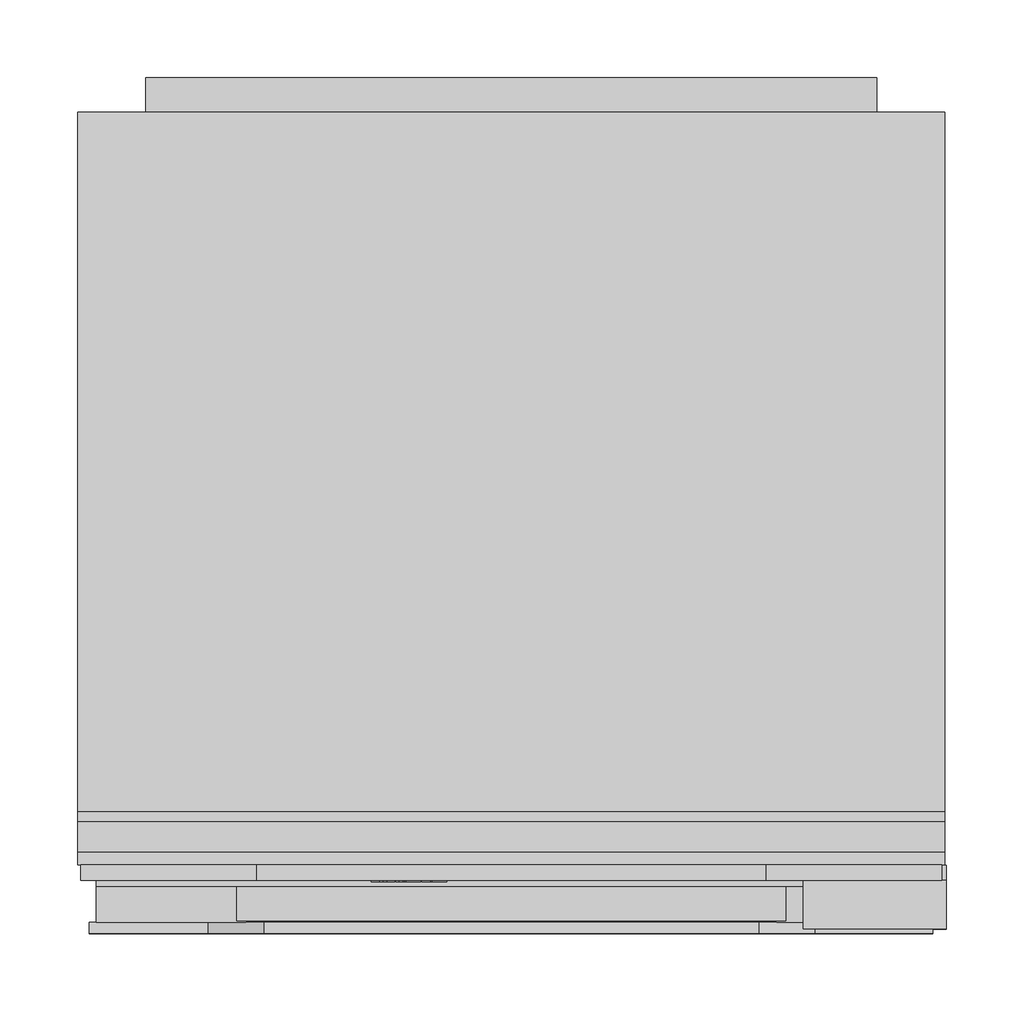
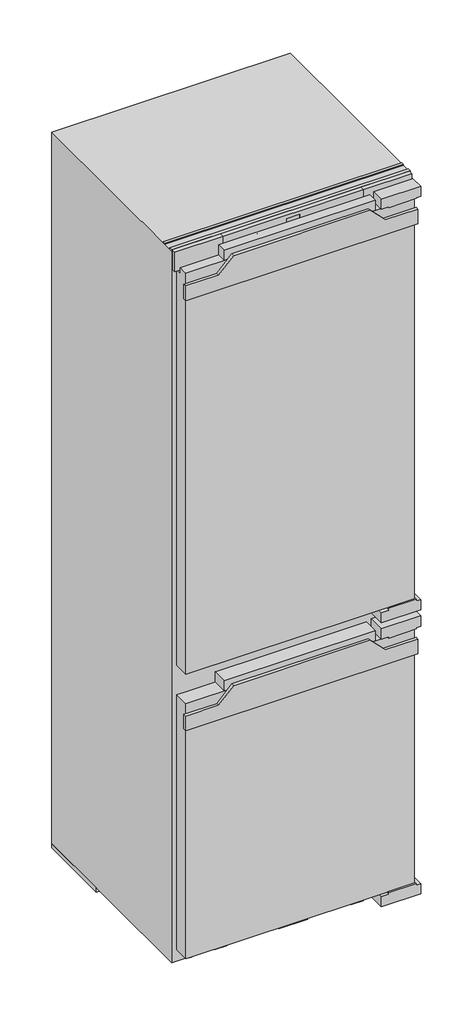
# Not in any storey: 1 proxy.
"""IFC4 building model written with IfcOpenShell, lengths in millimetres."""

import ifcopenshell
import ifcopenshell.guid

model = None  # the IFC model being written
_history = None  # IfcOwnerHistory: only IFC2X3 demands one
_inside = {}  # id of a spatial element -> (the spatial element, [elements in it])
_under = {}  # id of a project, library or spatial element -> (it, [spatial elements below it])
_declared = {}  # id of a project -> (the project, [libraries it declares])
_typed = {}  # id of a type object -> (the type object, [elements of that type])
_made_of = {}  # id of a material, layer set ... -> (it, [elements and type objects made of it])


def new_model(schema):
    """Start an empty IFC model of exactly this schema.

    Asked for "IFC4X3", IfcOpenShell would pick the latest addendum, in which some entities
    have other attributes; the version numbers below select the first issue.
    IFC2X3 requires an IfcOwnerHistory on every rooted entity: one is made here for all.
    """
    global model, _history
    if schema == "IFC4X3":
        model = ifcopenshell.file(schema_version=(4, 3, 0, 0))
    else:
        model = ifcopenshell.file(schema=schema)
    _inside.clear()
    _under.clear()
    _declared.clear()
    _typed.clear()
    _made_of.clear()
    _history = None
    if model.schema == "IFC2X3":
        org = make("IfcOrganization", Name="unknown")
        user = make(
            "IfcPersonAndOrganization",
            ThePerson=make("IfcPerson", FamilyName="unknown"),
            TheOrganization=org,
        )
        app = make(
            "IfcApplication",
            ApplicationDeveloper=org,
            Version="unknown",
            ApplicationFullName="unknown",
            ApplicationIdentifier="unknown",
        )
        _history = make(
            "IfcOwnerHistory",
            OwningUser=user,
            OwningApplication=app,
            ChangeAction="ADDED",
            CreationDate=0,
        )
    return model


def make(cls, **values):
    """One entity of the class cls with the attributes given. An attribute that is None is left unset."""
    return model.create_entity(
        cls, **{name: value for name, value in values.items() if value is not None}
    )


def rooted(cls, **values):
    """An entity with a GlobalId (a new one), such as an element, a storey or a relation."""
    return make(cls, GlobalId=ifcopenshell.guid.new(), OwnerHistory=_history, **values)


def si_unit(unit_type, name, prefix=None):
    """IfcSIUnit, for example si_unit("LENGTHUNIT", "METRE", prefix="MILLI")."""
    return make("IfcSIUnit", UnitType=unit_type, Prefix=prefix, Name=name)


def assignment(units):
    """IfcUnitAssignment: the units of a project."""
    return None if units is None else make("IfcUnitAssignment", Units=units)


def point(xyz):
    """IfcCartesianPoint."""
    return None if xyz is None else make("IfcCartesianPoint", Coordinates=xyz)


def direction(xyz):
    """IfcDirection."""
    return None if xyz is None else make("IfcDirection", DirectionRatios=xyz)


def frame(location, z_axis=None, x_axis=None):
    """IfcAxis2Placement3D, a coordinate frame: its origin and axes. An axis left out is left unset."""
    return make(
        "IfcAxis2Placement3D",
        Location=point(location),
        Axis=direction(z_axis),
        RefDirection=direction(x_axis),
    )


def frame_2d(location, x_axis=None):
    """IfcAxis2Placement2D, a coordinate frame in the plane: its origin and x axis."""
    return make(
        "IfcAxis2Placement2D", Location=point(location), RefDirection=direction(x_axis)
    )


def origin():
    """The frame at (0, 0, 0) with its axes left unset."""
    return frame((0.0, 0.0, 0.0))


def origin_with_axes():
    """The frame at (0, 0, 0) with the z axis (0, 0, 1) and the x axis (1, 0, 0) written out."""
    return frame((0.0, 0.0, 0.0), z_axis=(0.0, 0.0, 1.0), x_axis=(1.0, 0.0, 0.0))


def place(relative_to, where):
    """IfcLocalPlacement: puts the frame where relative to a parent placement (None: the world)."""
    return make(
        "IfcLocalPlacement", PlacementRelTo=relative_to, RelativePlacement=where
    )


def context(
    kind, dimensions, precision=None, world=None, true_north=None, identifier=None
):
    """IfcGeometricRepresentationContext, for example the 3D "Model" context."""
    return make(
        "IfcGeometricRepresentationContext",
        ContextIdentifier=identifier,
        ContextType=kind,
        CoordinateSpaceDimension=dimensions,
        Precision=precision,
        WorldCoordinateSystem=world,
        TrueNorth=true_north,
    )


def project(units=None, contexts=None):
    """IfcProject with its units and contexts."""
    return rooted(
        "IfcProject",
        Name="project",
        RepresentationContexts=contexts,
        UnitsInContext=assignment(units),
    )


def spatial(cls, under=None, at=None, **own):
    """A site, building, storey or space (cls), placed at a placement, below another one or the project."""
    s = rooted(cls, ObjectPlacement=at, **own)
    if under is not None:
        _under.setdefault(under.id(), (under, []))[1].append(s)
    return s


def polyline(points):
    """IfcPolyline through the points."""
    return make("IfcPolyline", Points=[point(p) for p in points])


def circle_curve(where, radius):
    """IfcCircle in the frame where."""
    return make("IfcCircle", Position=where, Radius=radius)


def ellipse_curve(where, semi_axis1, semi_axis2):
    """IfcEllipse in the frame where."""
    return make(
        "IfcEllipse", Position=where, SemiAxis1=semi_axis1, SemiAxis2=semi_axis2
    )


def trimmed(basis, trim1, trim2, sense, master):
    """IfcTrimmedCurve: the piece of a basis curve between two trims."""
    return make(
        "IfcTrimmedCurve",
        BasisCurve=basis,
        Trim1=trim1,
        Trim2=trim2,
        SenseAgreement=sense,
        MasterRepresentation=master,
    )


def segment(curve, same_sense, transition):
    """IfcCompositeCurveSegment."""
    return make(
        "IfcCompositeCurveSegment",
        Transition=transition,
        SameSense=same_sense,
        ParentCurve=curve,
    )


def composite_curve(segments, self_intersect=None):
    """IfcCompositeCurve: segments joined end to end."""
    return make("IfcCompositeCurve", Segments=segments, SelfIntersect=self_intersect)


def outline(outer, holes=None, kind="AREA"):
    """IfcArbitraryClosedProfileDef: a profile drawn as a closed curve; with holes, ...WithVoids."""
    if holes is None:
        return make("IfcArbitraryClosedProfileDef", ProfileType=kind, OuterCurve=outer)
    return make(
        "IfcArbitraryProfileDefWithVoids",
        ProfileType=kind,
        OuterCurve=outer,
        InnerCurves=holes,
    )


def extrude(swept, where, along, depth):
    """IfcExtrudedAreaSolid: the profile swept, set in the frame where, extruded along a direction by depth."""
    return make(
        "IfcExtrudedAreaSolid",
        SweptArea=swept,
        Position=where,
        ExtrudedDirection=direction(along),
        Depth=depth,
    )


def faces_of(points, faces, orient=None, outer=None):
    """IfcFace entities. A face is a list of loops; a loop is a list of indices into points, from 0.

    orient and outer hold one flag for each loop. By default every Orientation is true, the
    first loop of a face is its IfcFaceOuterBound and the others are IfcFaceBound.
    """
    made = []
    for i, loops in enumerate(faces):
        bounds = []
        for j, loop in enumerate(loops):
            is_outer = j == 0 if outer is None else outer[i][j]
            bounds.append(
                make(
                    "IfcFaceOuterBound" if is_outer else "IfcFaceBound",
                    Bound=make("IfcPolyLoop", Polygon=[points[k] for k in loop]),
                    Orientation=True if orient is None else orient[i][j],
                )
            )
        made.append(make("IfcFace", Bounds=bounds))
    return made


def faceted_brep(points, faces, orient=None, outer=None, voids=None):
    """IfcFacetedBrep: a solid bounded by flat faces; with voids (closed shells), ...WithVoids."""
    shared = [point(p) for p in points]
    hull = make("IfcClosedShell", CfsFaces=faces_of(shared, faces, orient, outer))
    if voids is None:
        return make("IfcFacetedBrep", Outer=hull)
    return make(
        "IfcFacetedBrepWithVoids",
        Outer=hull,
        Voids=[
            make(cls, CfsFaces=faces_of(shared, fs, o, b)) for cls, fs, o, b in voids
        ],
    )


def shape(context_of_items, identifier, shape_type, items):
    """IfcShapeRepresentation: the items that make up one representation, for example the "Body"."""
    return make(
        "IfcShapeRepresentation",
        ContextOfItems=context_of_items,
        RepresentationIdentifier=identifier,
        RepresentationType=shape_type,
        Items=items,
    )


def source(mapping_origin, context_of_items, identifier, shape_type, items):
    """IfcRepresentationMap: a shape defined once, which mapped items show again and again."""
    return make(
        "IfcRepresentationMap",
        MappingOrigin=mapping_origin,
        MappedRepresentation=shape(context_of_items, identifier, shape_type, items),
    )


def transform(
    local_origin,
    x_axis=None,
    y_axis=None,
    z_axis=None,
    scale=None,
    scale2=None,
    scale3=None,
    uniform=True,
):
    """IfcCartesianTransformationOperator3D, or its non-uniform kind. x_axis, y_axis, z_axis: its Axis1, 2, 3."""
    if uniform:
        return make(
            "IfcCartesianTransformationOperator3D",
            Axis1=direction(x_axis),
            Axis2=direction(y_axis),
            LocalOrigin=point(local_origin),
            Scale=scale,
            Axis3=direction(z_axis),
        )
    return make(
        "IfcCartesianTransformationOperator3DnonUniform",
        Axis1=direction(x_axis),
        Axis2=direction(y_axis),
        LocalOrigin=point(local_origin),
        Scale=scale,
        Axis3=direction(z_axis),
        Scale2=scale2,
        Scale3=scale3,
    )


def mapped(mapping_source, mapping_target):
    """IfcMappedItem: shows the shape of a source again, moved by a transform."""
    return make(
        "IfcMappedItem", MappingSource=mapping_source, MappingTarget=mapping_target
    )


def made_of(thing, what):
    """Note that an element or type object is made of a material, layer set ...; save() writes the relation."""
    if what is not None:
        _made_of.setdefault(what.id(), (what, []))[1].append(thing)
    return thing


def element(
    cls,
    number,
    at=None,
    inside=None,
    cuts=None,
    type_object=None,
    material=None,
    context=None,
    identifier="Body",
    shape_type=None,
    held_by="IfcProductDefinitionShape",
    body=None,
    shapes=None,
    **own,
):
    """One element of the class cls, such as IfcWall. Its Tag is "e" and its number.

    at: its placement. inside: the storey or other place that contains it. cuts: it is an
    opening in that element (IfcRelVoidsElement). A single representation is given by context,
    identifier, shape_type and body (its items); several are given by shapes. held_by: the class
    of the entity that holds the representations. save() writes the other relations.
    """
    e = rooted(cls, Tag="e%d" % number, ObjectPlacement=at, **own)
    if body is not None:
        shapes = [shape(context, identifier, shape_type, body)]
    if shapes is not None:
        e.Representation = make(held_by, Representations=shapes)
    if inside is not None:
        _inside.setdefault(inside.id(), (inside, []))[1].append(e)
    if cuts is not None:
        rooted(
            "IfcRelVoidsElement", RelatingBuildingElement=cuts, RelatedOpeningElement=e
        )
    if type_object is not None:
        _typed.setdefault(type_object.id(), (type_object, []))[1].append(e)
    return made_of(e, material)


def aggregate(whole, parts):
    """IfcRelAggregates: a whole, such as a stair, and the parts it consists of."""
    return rooted("IfcRelAggregates", RelatingObject=whole, RelatedObjects=parts)


def save(model, path):
    """Write the relations noted so far, then the file.

    IfcRelAggregates (storeys below a building ...), IfcRelContainedInSpatialStructure (elements
    in a storey), IfcRelDefinesByType, IfcRelAssociatesMaterial and IfcRelDeclares: one each for
    every whole, place, type object, material and project.
    """
    for whole, parts in _under.values():
        aggregate(whole, parts)
    for where, things in _inside.values():
        rooted(
            "IfcRelContainedInSpatialStructure",
            RelatedElements=things,
            RelatingStructure=where,
        )
    for kind, things in _typed.values():
        rooted("IfcRelDefinesByType", RelatedObjects=things, RelatingType=kind)
    for what, things in _made_of.values():
        rooted("IfcRelAssociatesMaterial", RelatedObjects=things, RelatingMaterial=what)
    for by, libraries in _declared.values():
        rooted("IfcRelDeclares", RelatingContext=by, RelatedDefinitions=libraries)
    model.write(path)


def plane_surface(at):
    """IfcPlane: the flat surface through the origin of the frame at, square to its z axis."""
    return make("IfcPlane", Position=at)


def cylinder_surface(at, radius):
    """IfcCylindricalSurface: all points at the distance radius from the z axis of the frame at."""
    return make("IfcCylindricalSurface", Position=at, Radius=radius)


def revolved_surface(curve, axis_point, axis_direction):
    """IfcSurfaceOfRevolution: the curve turned about the line through axis_point along axis_direction."""
    return make(
        "IfcSurfaceOfRevolution",
        SweptCurve=make("IfcArbitraryOpenProfileDef", ProfileType="CURVE", Curve=curve),
        AxisPosition=make("IfcAxis1Placement", Location=point(axis_point), Axis=direction(axis_direction)),
    )


def extruded_surface(curve, direction_of_extrusion, depth):
    """IfcSurfaceOfLinearExtrusion: the curve pushed along a direction by depth."""
    return make(
        "IfcSurfaceOfLinearExtrusion",
        SweptCurve=make("IfcArbitraryOpenProfileDef", ProfileType="CURVE", Curve=curve),
        ExtrudedDirection=direction(direction_of_extrusion),
        Depth=depth,
    )


def advanced_brep(points, edges, surfaces, faces):
    """IfcAdvancedBrep: a solid bounded by faces that lie on surfaces and meet in shared edges.

    An edge is (start, end): straight between two places in points (the first is 0);
    or (start, end, curve); or (start, end, curve, False) where it runs against its curve.
    A face is (place in surfaces, loops), or (place, loops, False) where it looks against
    its surface's normal. A loop lists edges by number (the first is 1), with a minus sign
    where the edge is run from its end to its start. The first loop is the outer one.
    """
    corners = [point(p) for p in points]
    vertices = [make("IfcVertexPoint", VertexGeometry=c) for c in corners]
    made = []
    for start, end, *more in edges:
        made.append(
            make(
                "IfcEdgeCurve",
                EdgeStart=vertices[start],
                EdgeEnd=vertices[end],
                EdgeGeometry=more[0] if more else make("IfcPolyline", Points=[corners[start], corners[end]]),
                SameSense=more[1] if len(more) > 1 else True,
            )
        )
    hull = []
    for where, loops, *sense in faces:
        bounds = []
        for j, loop in enumerate(loops):
            ring = [make("IfcOrientedEdge", EdgeElement=made[abs(k) - 1], Orientation=k > 0) for k in loop]
            bounds.append(
                make(
                    "IfcFaceOuterBound" if j == 0 else "IfcFaceBound",
                    Bound=make("IfcEdgeLoop", EdgeList=ring),
                    Orientation=True,
                )
            )
        hull.append(make("IfcAdvancedFace", Bounds=bounds, FaceSurface=surfaces[where], SameSense=sense[0] if sense else True))
    return make("IfcAdvancedBrep", Outer=make("IfcClosedShell", CfsFaces=hull))


def specialty_equipment_6a6e2b0e(model_context):
    return source(origin(), model_context, "Body", "SolidModel", [
        advanced_brep(
        [(-46.64, 33.0, 1742.896), (-46.64, 33.0, 1743.704), (-41.288, 33.0, 1743.704), (-50.6, 33.0, 1743.704), (-48.4, 33.0, 1741.0), (-41.424, 33.0, 1742.896), (-43.84, 33.0, 1742.896), (-45.744, 33.0, 1742.0), (-46.64, 33.0, 1744.728), (-46.64, 33.0, 1745.6), (-45.272, 33.0, 1745.6), (-45.272, 33.0, 1744.728), (-46.64, 34.0, 1742.896), (-45.744, 34.0, 1742.0), (-43.84, 34.0, 1742.896), (-41.424, 34.0, 1742.896), (-48.4, 34.0, 1741.0), (-50.6, 34.0, 1743.704), (-41.288, 34.0, 1743.704), (-46.64, 34.0, 1743.704), (-46.64, 34.0, 1744.728), (-45.272, 34.0, 1744.728), (-45.272, 34.0, 1745.6), (-46.64, 34.0, 1745.6)],
        [
            (0, 1),
            (1, 2),
            (2, 3, ellipse_curve(frame((-45.944, 33.0, 1743.704), z_axis=(0.0, -1.0, 0.0), x_axis=(-1.0, 0.0, 0.0)), 4.656, 3.848)),
            (3, 4, circle_curve(frame((-47.5039564, 33.0, 1743.976), z_axis=(0.0, -1.0, 0.0), x_axis=(0.0, 0.0, -1.0)), 3.1079688)),
            (4, 5, circle_curve(frame((-46.0372064, 33.0, 1746.088), z_axis=(0.0, -1.0, 0.0), x_axis=(0.0, 0.0, -1.0)), 5.6098607)),
            (5, 6),
            (6, 7, circle_curve(frame((-45.3529412, 33.0, 1743.64), z_axis=(0.0, 1.0, 0.0), x_axis=(0.0, 0.0, -1.0)), 1.6859795)),
            (7, 0, circle_curve(frame((-45.744, 33.0, 1742.896), z_axis=(0.0, 1.0, 0.0), x_axis=(0.0, 0.0, -1.0)), 0.896)),
            (8, 9),
            (9, 10, circle_curve(frame((-45.956, 33.0, 1745.6), z_axis=(0.0, 1.0, 0.0), x_axis=(0.0, 0.0, -1.0)), 0.684)),
            (10, 11),
            (11, 8),
            (12, 13, circle_curve(frame((-45.744, 34.0, 1742.896), z_axis=(0.0, -1.0, 0.0), x_axis=(0.0, 0.0, -1.0)), 0.896)),
            (13, 14, circle_curve(frame((-45.3529412, 34.0, 1743.64), z_axis=(0.0, -1.0, 0.0), x_axis=(0.0, 0.0, -1.0)), 1.6859795)),
            (14, 15),
            (15, 16, circle_curve(frame((-46.0372064, 34.0, 1746.088), z_axis=(0.0, 1.0, 0.0), x_axis=(0.0, 0.0, -1.0)), 5.6098607)),
            (16, 17, circle_curve(frame((-47.5039564, 34.0, 1743.976), z_axis=(0.0, 1.0, 0.0), x_axis=(0.0, 0.0, -1.0)), 3.1079688)),
            (17, 18, ellipse_curve(frame((-45.944, 34.0, 1743.704), z_axis=(0.0, 1.0, 0.0), x_axis=(-1.0, 0.0, 0.0)), 4.656, 3.848)),
            (18, 19),
            (19, 12),
            (20, 21),
            (21, 22),
            (22, 23, circle_curve(frame((-45.956, 34.0, 1745.6), z_axis=(0.0, -1.0, 0.0), x_axis=(0.0, 0.0, -1.0)), 0.684)),
            (23, 20),
            (0, 12),
            (19, 1),
            (18, 2),
            (5, 15),
            (14, 6),
            (17, 3),
            (13, 7),
            (16, 4),
            (8, 20),
            (23, 9),
            (22, 10),
            (21, 11),
        ],
        [
            plane_surface(frame((-46.64, 33.0, 1743.704), z_axis=(0.0, -1.0, 0.0), x_axis=(0.0, 0.0, 1.0))),
            plane_surface(frame((-46.64, 34.0, 1743.704), z_axis=(0.0, 1.0, 0.0), x_axis=(0.0, 0.0, -1.0))),
            plane_surface(frame((-46.64, 33.0, 1742.896), z_axis=(1.0, 0.0, 0.0), x_axis=(0.0, 1.0, 0.0))),
            plane_surface(frame((-46.64, 33.0, 1743.704), z_axis=(0.0, 0.0, -1.0), x_axis=(0.0, 1.0, 0.0))),
            plane_surface(frame((-41.424, 33.0, 1742.896), z_axis=(0.0, 0.0, 1.0), x_axis=(0.0, 1.0, 0.0))),
            extruded_surface(trimmed(ellipse_curve(frame((-45.944, 35.0, 1743.704), z_axis=(0.0, -1.0, 0.0), x_axis=(-1.0, 0.0, 0.0)), 4.656, 3.848), [point((-41.288, 35.0, 1743.704))], [point((-50.6, 35.0, 1743.704))], True, "CARTESIAN"), (0.0, -1.0, 0.0), 1.0),
            revolved_surface(polyline([(-45.3529412, 34.0, 1741.9540205), (-45.3529412, 33.0, 1741.9540205)]), (-45.3529412, 34.0, 1743.64), (0.0, 1.0, 0.0)),
            revolved_surface(polyline([(-45.744, 34.0, 1742.0), (-45.744, 33.0, 1742.0)]), (-45.744, 34.0, 1742.896), (0.0, 1.0, 0.0)),
            cylinder_surface(frame((-47.5039564, 34.0, 1743.976), z_axis=(0.0, -1.0, 0.0), x_axis=(0.0, 0.0, -1.0)), 3.1079688),
            cylinder_surface(frame((-46.0372064, 34.0, 1746.088), z_axis=(0.0, -1.0, 0.0), x_axis=(0.0, 0.0, -1.0)), 5.6098607),
            plane_surface(frame((-46.64, 33.0, 1744.728), z_axis=(1.0, 0.0, 0.0), x_axis=(0.0, 1.0, 0.0))),
            revolved_surface(polyline([(-45.956, 34.0, 1744.916), (-45.956, 33.0, 1744.916)]), (-45.956, 34.0, 1745.6), (0.0, 1.0, 0.0)),
            plane_surface(frame((-45.272, 33.0, 1745.6), z_axis=(-1.0, 0.0, 0.0), x_axis=(0.0, 1.0, 0.0))),
            plane_surface(frame((-45.272, 33.0, 1744.728), z_axis=(0.0, 0.0, 1.0), x_axis=(0.0, 1.0, 0.0))),
        ],
        [
            (0, [[1, 2, 3, 4, 5, 6, 7, 8], [9, 10, 11, 12]]),
            (1, [[13, 14, 15, 16, 17, 18, 19, 20], [21, 22, 23, 24]]),
            (2, [[-1, 25, -20, 26]]),
            (3, [[-2, -26, -19, 27]]),
            (4, [[-6, 28, -15, 29]]),
            (5, [[-3, -27, -18, 30]]),
            (6, [[-7, -29, -14, 31]]),
            (7, [[-8, -31, -13, -25]]),
            (8, [[-4, -30, -17, 32]]),
            (9, [[-5, -32, -16, -28]]),
            (10, [[-9, 33, -24, 34]]),
            (11, [[-10, -34, -23, 35]]),
            (12, [[-11, -35, -22, 36]]),
            (13, [[-12, -36, -21, -33]]),
        ],
    ),
        advanced_brep(
        [(-63.336, 33.0, 1742.896), (-63.336, 33.0, 1743.704), (-57.984, 33.0, 1743.704), (-67.296, 33.0, 1743.704), (-65.096, 33.0, 1741.0), (-58.12, 33.0, 1742.896), (-60.536, 33.0, 1742.896), (-62.44, 33.0, 1742.0), (-63.336, 33.0, 1744.728), (-63.336, 33.0, 1745.6), (-61.968, 33.0, 1745.6), (-61.968, 33.0, 1744.728), (-63.336, 34.0, 1742.896), (-62.44, 34.0, 1742.0), (-60.536, 34.0, 1742.896), (-58.12, 34.0, 1742.896), (-65.096, 34.0, 1741.0), (-67.296, 34.0, 1743.704), (-57.984, 34.0, 1743.704), (-63.336, 34.0, 1743.704), (-63.336, 34.0, 1744.728), (-61.968, 34.0, 1744.728), (-61.968, 34.0, 1745.6), (-63.336, 34.0, 1745.6)],
        [
            (0, 1),
            (1, 2),
            (2, 3, ellipse_curve(frame((-62.64, 33.0, 1743.704), z_axis=(0.0, -1.0, 0.0), x_axis=(-1.0, 0.0, 0.0)), 4.656, 3.848)),
            (3, 4, circle_curve(frame((-64.1999564, 33.0, 1743.976), z_axis=(0.0, -1.0, 0.0), x_axis=(0.0, 0.0, -1.0)), 3.1079688)),
            (4, 5, circle_curve(frame((-62.7332064, 33.0, 1746.088), z_axis=(0.0, -1.0, 0.0), x_axis=(0.0, 0.0, -1.0)), 5.6098607)),
            (5, 6),
            (6, 7, circle_curve(frame((-62.0489412, 33.0, 1743.64), z_axis=(0.0, 1.0, 0.0), x_axis=(0.0, 0.0, -1.0)), 1.6859795)),
            (7, 0, circle_curve(frame((-62.44, 33.0, 1742.896), z_axis=(0.0, 1.0, 0.0), x_axis=(0.0, 0.0, -1.0)), 0.896)),
            (8, 9),
            (9, 10, circle_curve(frame((-62.652, 33.0, 1745.6), z_axis=(0.0, 1.0, 0.0), x_axis=(0.0, 0.0, -1.0)), 0.684)),
            (10, 11),
            (11, 8),
            (12, 13, circle_curve(frame((-62.44, 34.0, 1742.896), z_axis=(0.0, -1.0, 0.0), x_axis=(0.0, 0.0, -1.0)), 0.896)),
            (13, 14, circle_curve(frame((-62.0489412, 34.0, 1743.64), z_axis=(0.0, -1.0, 0.0), x_axis=(0.0, 0.0, -1.0)), 1.6859795)),
            (14, 15),
            (15, 16, circle_curve(frame((-62.7332064, 34.0, 1746.088), z_axis=(0.0, 1.0, 0.0), x_axis=(0.0, 0.0, -1.0)), 5.6098607)),
            (16, 17, circle_curve(frame((-64.1999564, 34.0, 1743.976), z_axis=(0.0, 1.0, 0.0), x_axis=(0.0, 0.0, -1.0)), 3.1079688)),
            (17, 18, ellipse_curve(frame((-62.64, 34.0, 1743.704), z_axis=(0.0, 1.0, 0.0), x_axis=(-1.0, 0.0, 0.0)), 4.656, 3.848)),
            (18, 19),
            (19, 12),
            (20, 21),
            (21, 22),
            (22, 23, circle_curve(frame((-62.652, 34.0, 1745.6), z_axis=(0.0, -1.0, 0.0), x_axis=(0.0, 0.0, -1.0)), 0.684)),
            (23, 20),
            (0, 12),
            (19, 1),
            (18, 2),
            (5, 15),
            (14, 6),
            (17, 3),
            (13, 7),
            (16, 4),
            (8, 20),
            (23, 9),
            (22, 10),
            (21, 11),
        ],
        [
            plane_surface(frame((-63.336, 33.0, 1743.704), z_axis=(0.0, -1.0, 0.0), x_axis=(0.0, 0.0, 1.0))),
            plane_surface(frame((-63.336, 34.0, 1743.704), z_axis=(0.0, 1.0, 0.0), x_axis=(0.0, 0.0, -1.0))),
            plane_surface(frame((-63.336, 33.0, 1742.896), z_axis=(1.0, 0.0, 0.0), x_axis=(0.0, 1.0, 0.0))),
            plane_surface(frame((-63.336, 33.0, 1743.704), z_axis=(0.0, 0.0, -1.0), x_axis=(0.0, 1.0, 0.0))),
            plane_surface(frame((-58.12, 33.0, 1742.896), z_axis=(0.0, 0.0, 1.0), x_axis=(0.0, 1.0, 0.0))),
            extruded_surface(trimmed(ellipse_curve(frame((-62.64, 35.0, 1743.704), z_axis=(0.0, -1.0, 0.0), x_axis=(-1.0, 0.0, 0.0)), 4.656, 3.848), [point((-57.984, 35.0, 1743.704))], [point((-67.296, 35.0, 1743.704))], True, "CARTESIAN"), (0.0, -1.0, 0.0), 1.0),
            revolved_surface(polyline([(-62.0489412, 34.0, 1741.9540205), (-62.0489412, 33.0, 1741.9540205)]), (-62.0489412, 34.0, 1743.64), (0.0, 1.0, 0.0)),
            revolved_surface(polyline([(-62.44, 34.0, 1742.0), (-62.44, 33.0, 1742.0)]), (-62.44, 34.0, 1742.896), (0.0, 1.0, 0.0)),
            cylinder_surface(frame((-64.1999564, 34.0, 1743.976), z_axis=(0.0, -1.0, 0.0), x_axis=(0.0, 0.0, -1.0)), 3.1079688),
            cylinder_surface(frame((-62.7332064, 34.0, 1746.088), z_axis=(0.0, -1.0, 0.0), x_axis=(0.0, 0.0, -1.0)), 5.6098607),
            plane_surface(frame((-63.336, 33.0, 1744.728), z_axis=(1.0, 0.0, 0.0), x_axis=(0.0, 1.0, 0.0))),
            revolved_surface(polyline([(-62.652, 34.0, 1744.916), (-62.652, 33.0, 1744.916)]), (-62.652, 34.0, 1745.6), (0.0, 1.0, 0.0)),
            plane_surface(frame((-61.968, 33.0, 1745.6), z_axis=(-1.0, 0.0, 0.0), x_axis=(0.0, 1.0, 0.0))),
            plane_surface(frame((-61.968, 33.0, 1744.728), z_axis=(0.0, 0.0, 1.0), x_axis=(0.0, 1.0, 0.0))),
        ],
        [
            (0, [[1, 2, 3, 4, 5, 6, 7, 8], [9, 10, 11, 12]]),
            (1, [[13, 14, 15, 16, 17, 18, 19, 20], [21, 22, 23, 24]]),
            (2, [[-1, 25, -20, 26]]),
            (3, [[-2, -26, -19, 27]]),
            (4, [[-6, 28, -15, 29]]),
            (5, [[-3, -27, -18, 30]]),
            (6, [[-7, -29, -14, 31]]),
            (7, [[-8, -31, -13, -25]]),
            (8, [[-4, -30, -17, 32]]),
            (9, [[-5, -32, -16, -28]]),
            (10, [[-9, 33, -24, 34]]),
            (11, [[-10, -34, -23, 35]]),
            (12, [[-11, -35, -22, 36]]),
            (13, [[-12, -36, -21, -33]]),
        ],
    ),
        extrude(outline(polyline([(1748.528, -72.08), (1747.232, -71.472), (1748.496, -68.76), (1749.792, -69.36), (1748.528, -72.08)])), frame((0.0, 33.0, 0.0), z_axis=(0.0, 1.0, 0.0), x_axis=(0.0, 0.0, 1.0)), (0.0, 0.0, 1.0), 1.0),
        extrude(outline(polyline([(1747.056, -74.056), (1745.624, -74.056), (1745.624, -73.104), (1742.344, -73.104), (1742.344, -74.056), (1741.0, -74.056), (1741.0, -67.744), (1742.344, -67.744), (1742.344, -68.672), (1747.056, -68.672), (1747.056, -74.056)])), frame((0.0, 33.0, 0.0), z_axis=(0.0, 1.0, 0.0), x_axis=(0.0, 0.0, 1.0)), (0.0, 0.0, 1.0), 1.0),
        extrude(outline(polyline([(1747.696, -57.536), (1747.696, -56.576), (1742.344, -56.576), (1742.344, -57.536), (1741.0, -57.536), (1741.0, -51.048), (1742.344, -51.048), (1742.344, -52.032), (1749.0, -52.032), (1749.0, -57.536), (1747.696, -57.536)])), frame((0.0, 33.0, 0.0), z_axis=(0.0, 1.0, 0.0), x_axis=(0.0, 0.0, 1.0)), (0.0, 0.0, 1.0), 1.0),
        extrude(outline(polyline([(1747.696, -90.0), (1747.696, -89.032), (1742.344, -89.032), (1742.344, -90.0), (1741.0, -90.0), (1741.0, -86.48), (1742.344, -86.48), (1742.344, -87.44), (1745.7471247, -87.44), (1741.0, -83.864), (1745.8152223, -80.272), (1742.344, -80.272), (1742.344, -81.256), (1741.0, -81.256), (1741.0, -74.872), (1742.344, -74.872), (1742.344, -75.888), (1747.696, -75.888), (1747.696, -74.872), (1749.0, -74.872), (1749.0, -79.744), (1746.0, -82.08), (1749.0, -84.424), (1749.0, -90.0), (1747.696, -90.0)])), frame((0.0, 33.0, 0.0), z_axis=(0.0, 1.0, 0.0), x_axis=(0.0, 0.0, 1.0)), (0.0, 0.0, 1.0), 1.0),
        extrude(outline(polyline([(607.0, 271.0), (643.0, 271.0), (643.0, 195.0), (679.0, 159.0), (679.0, -159.0), (643.0, -195.0), (643.0, -271.0), (607.0, -271.0), (607.0, 271.0)])), frame((0.0, 0.0, 0.0), z_axis=(0.0, 1.0, 0.0), x_axis=(0.0, 0.0, 1.0)), (0.0, 0.0, 1.0), 7.0),
        extrude(outline(polyline([(1669.0, 271.0), (1705.0, 271.0), (1705.0, 195.0), (1741.0, 159.0), (1741.0, -159.0), (1705.0, -195.0), (1705.0, -271.0), (1669.0, -271.0), (1669.0, 271.0)])), frame((0.0, 0.0, 0.0), z_axis=(0.0, 1.0, 0.0), x_axis=(0.0, 0.0, 1.0)), (0.0, 0.0, 1.0), 7.0),
        extrude(outline(polyline([(736.0, 205.5), (736.0, 187.5), (711.0, 187.5), (711.0, 279.5), (736.0, 279.5), (736.0, 269.5), (740.0, 269.5), (740.0, 205.5), (736.0, 205.5)])), frame((0.0, 3.0, 0.0), z_axis=(0.0, 1.0, 0.0), x_axis=(0.0, 0.0, 1.0)), (0.0, 0.0, 1.0), 41.0),
        extrude(outline(polyline([(176.5, 8.0), (-176.5, 8.0), (-176.5, 30.0), (176.5, 30.0), (176.5, 8.0)])), frame((0.0, 0.0, 1730.0), z_axis=(0.0, 0.0, 1.0), x_axis=(1.0, 0.0, 0.0)), (0.0, 0.0, 1.0), 25.0),
        extrude(outline(polyline([(7.0, 740.0), (7.0, 1730.0), (30.0, 1730.0), (30.0, 1715.0), (44.0, 1715.0), (44.0, 740.0), (7.0, 740.0)])), frame((-266.5, 0.0, 0.0), z_axis=(1.0, 0.0, 0.0), x_axis=(0.0, 1.0, 0.0)), (0.0, 0.0, 1.0), 533.0),
        extrude(outline(polyline([(-176.5, 44.0), (176.5, 44.0), (176.5, 8.0), (-176.5, 8.0), (-176.5, 44.0)])), frame((0.0, 0.0, 667.0), z_axis=(0.0, 0.0, 1.0), x_axis=(1.0, 0.0, 0.0)), (0.0, 0.0, 1.0), 25.0),
        extrude(outline(polyline([(696.0, 279.5), (696.0, 187.5), (670.0, 187.5), (670.0, 205.5), (667.0, 205.5), (667.0, 269.5), (670.0, 269.5), (670.0, 279.5), (696.0, 279.5)])), frame((0.0, 3.0, 0.0), z_axis=(0.0, 1.0, 0.0), x_axis=(0.0, 0.0, 1.0)), (0.0, 0.0, 1.0), 41.0),
        extrude(outline(polyline([(34.0, 205.5), (34.0, 187.5), (10.0, 187.5), (10.0, 279.5), (34.0, 279.5), (34.0, 269.5), (38.0, 269.5), (38.0, 205.5), (34.0, 205.5)])), frame((0.0, 3.0, 0.0), z_axis=(0.0, 1.0, 0.0), x_axis=(0.0, 0.0, 1.0)), (0.0, 0.0, 1.0), 41.0),
        extrude(outline(polyline([(1732.0, 269.5), (1732.0, 279.5), (1757.0, 279.5), (1757.0, 187.5), (1732.0, 187.5), (1732.0, 205.5), (1730.0, 205.5), (1730.0, 269.5), (1732.0, 269.5)])), frame((0.0, 3.0, 0.0), z_axis=(0.0, 1.0, 0.0), x_axis=(0.0, 0.0, 1.0)), (0.0, 0.0, 1.0), 31.0),
        extrude(outline(polyline([(-266.5, 44.0), (266.5, 44.0), (266.5, 7.0), (-266.5, 7.0), (-266.5, 44.0)])), frame((0.0, 0.0, 38.0), z_axis=(0.0, 0.0, 1.0), x_axis=(1.0, 0.0, 0.0)), (0.0, 0.0, 1.0), 629.0),
        faceted_brep([(163.5, 34.0, 1770.0), (-163.5, 34.0, 1770.0), (-163.5, 34.0, 1721.0), (163.5, 34.0, 1721.0), (15.0, 34.0, 1761.0), (15.0, 34.0, 1731.0), (-15.0, 34.0, 1731.0), (-15.0, 34.0, 1761.0), (163.5, 44.0, 1770.0), (163.5, 44.0, 1721.0), (-163.5, 44.0, 1721.0), (-163.5, 44.0, 1770.0), (15.0, 35.0, 1761.0), (-15.0, 35.0, 1761.0), (-15.0, 35.0, 1731.0), (15.0, 35.0, 1731.0)], [[[0, 1, 2, 3], [4, 5, 6, 7]], [[8, 9, 10, 11]], [[0, 3, 9, 8]], [[3, 2, 10, 9]], [[2, 1, 11, 10]], [[1, 0, 8, 11]], [[12, 13, 14, 15]], [[12, 15, 5, 4]], [[15, 14, 6, 5]], [[14, 13, 7, 6]], [[13, 12, 4, 7]]]),
        extrude(outline(polyline([(163.5, 44.0), (276.5, 44.0), (276.5, 34.0), (163.5, 34.0), (163.5, 44.0)])), frame((0.0, 0.0, 1721.0), z_axis=(0.0, 0.0, 1.0), x_axis=(1.0, 0.0, 0.0)), (0.0, 0.0, 1.0), 49.0),
        extrude(outline(polyline([(-276.5, 44.0), (-163.5, 44.0), (-163.5, 34.0), (-276.5, 34.0), (-276.5, 44.0)])), frame((0.0, 0.0, 1721.0), z_axis=(0.0, 0.0, 1.0), x_axis=(1.0, 0.0, 0.0)), (0.0, 0.0, 1.0), 49.0),
        extrude(outline(polyline([(-15.0, 35.0), (15.0, 35.0), (15.0, 34.0), (-15.0, 34.0), (-15.0, 35.0)])), frame((0.0, 0.0, 1731.0), z_axis=(0.0, 0.0, 1.0), x_axis=(1.0, 0.0, 0.0)), (0.0, 0.0, 1.0), 30.0),
        extrude(outline(polyline([(1647.0, -235.0), (27.0, -235.0), (27.0, 235.0), (130.0, 235.0), (130.0, 180.0), (160.0, 180.0), (160.0, 235.0), (1647.0, 235.0), (1647.0, -235.0)])), frame((0.0, 528.0, 0.0), z_axis=(0.0, 1.0, 0.0), x_axis=(0.0, 0.0, 1.0)), (0.0, 0.0, 1.0), 22.0),
        extrude(outline(polyline([(-144.929185, 52.0), (-174.0, 52.0), (-194.6983363, 348.0), (-165.6275213, 348.0), (-144.929185, 52.0)])), origin_with_axes(), (0.0, 0.0, 1.0), 10.0),
        extrude(outline(polyline([(144.929185, 52.0), (165.6275213, 348.0), (194.6983363, 348.0), (174.0, 52.0), (144.929185, 52.0)])), origin_with_axes(), (0.0, 0.0, 1.0), 10.0),
        extrude(outline(polyline([(541.4384039, 149.874164), (548.6647626, 149.874164), (548.6647626, 139.824714), (541.2826236, 139.824714), (541.2826236, 141.0836119), (547.4056247, 141.0836119), (547.4056247, 144.3750411), (541.7614845, 144.3750411), (541.7614845, 145.6249589), (547.4056247, 145.6249589), (547.4056247, 148.6148402), (541.4384039, 148.6148402), (541.4384039, 149.874164)])), frame((193.5, 0.0, 0.0), z_axis=(1.0, 0.0, 0.0), x_axis=(0.0, 1.0, 0.0)), (0.0, 0.0, 1.0), 1.0),
        extrude(outline(polyline([(538.1383052, 149.8716162), (539.399354, 149.8716162), (539.399354, 139.824714), (533.1225656, 139.824714), (533.1225656, 141.0927041), (538.1383052, 141.0927041), (538.1383052, 149.8716162)])), frame((193.5, 0.0, 0.0), z_axis=(1.0, 0.0, 0.0), x_axis=(0.0, 1.0, 0.0)), (0.0, 0.0, 1.0), 1.0),
        advanced_brep(
        [(232.0, 528.0, 145.0), (217.0, 528.0, 145.0), (232.0, 549.5, 145.0), (217.0, 534.5, 145.0), (194.5, 549.5, 145.0), (194.5, 534.5, 145.0)],
        [
            (0, 1, circle_curve(frame((224.5, 528.0, 145.0), z_axis=(0.0, -1.0, 0.0), x_axis=(-1.0, 0.0, 0.0)), 7.5)),
            (1, 0, circle_curve(frame((224.5, 528.0, 145.0), z_axis=(0.0, -1.0, 0.0), x_axis=(-1.0, 0.0, 0.0)), 7.5)),
            (0, 2),
            (2, 3, ellipse_curve(frame((224.5, 542.0, 145.0), z_axis=(0.7071067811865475, -0.7071067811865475, 0.0), x_axis=(-0.7071067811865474, -0.7071067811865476, 0.0)), 10.6066017, 7.5)),
            (3, 1),
            (3, 2, ellipse_curve(frame((224.5, 542.0, 145.0), z_axis=(0.7071067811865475, -0.7071067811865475, 0.0), x_axis=(-0.7071067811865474, -0.7071067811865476, 0.0)), 10.6066017, 7.5)),
            (4, 5, circle_curve(frame((194.5, 542.0, 145.0), z_axis=(-1.0, 0.0, 0.0), x_axis=(0.0, -1.0, 0.0)), 7.5)),
            (5, 4, circle_curve(frame((194.5, 542.0, 145.0), z_axis=(-1.0, 0.0, 0.0), x_axis=(0.0, -1.0, 0.0)), 7.5)),
            (2, 4),
            (5, 3),
        ],
        [
            plane_surface(frame((224.5, 528.0, 145.0), z_axis=(0.0, -1.0, 0.0), x_axis=(0.0, 0.0, 1.0))),
            cylinder_surface(frame((224.5, 528.0, 145.0), z_axis=(0.0, -1.0, 0.0), x_axis=(-1.0, 0.0, 0.0)), 7.5),
            plane_surface(frame((194.5, 542.0, 145.0), z_axis=(-1.0, 0.0, 0.0), x_axis=(0.0, 0.0, 1.0))),
            cylinder_surface(frame((224.5, 542.0, 145.0), z_axis=(1.0, 0.0, 0.0), x_axis=(0.0, -1.0, 0.0)), 7.5),
        ],
        [
            (0, [[1, 2]]),
            (1, [[-1, 3, 4, 5]]),
            (1, [[-2, -5, 6, -3]]),
            (2, [[7, 8]]),
            (3, [[-4, 9, -8, 10]]),
            (3, [[-6, -10, -7, -9]]),
        ],
    ),
        extrude(outline(polyline([(-34.0, 44.0), (34.0, 44.0), (34.0, 35.0), (-34.0, 35.0), (-34.0, 44.0)])), frame((0.0, 0.0, 13.0), z_axis=(0.0, 0.0, 1.0), x_axis=(1.0, 0.0, 0.0)), (0.0, 0.0, 1.0), 19.0),
        extrude(outline(polyline([(278.5, 52.0), (278.5, 44.0), (-278.5, 44.0), (-278.5, 52.0), (278.5, 52.0)])), frame((0.0, 0.0, 1767.0), z_axis=(0.0, 0.0, 1.0), x_axis=(1.0, 0.0, 0.0)), (0.0, 0.0, 1.0), 3.0),
        extrude(outline(polyline([(278.5, 78.0), (278.5, 72.0), (-278.5, 72.0), (-278.5, 78.0), (278.5, 78.0)])), frame((0.0, 0.0, 1767.0), z_axis=(0.0, 0.0, 1.0), x_axis=(1.0, 0.0, 0.0)), (0.0, 0.0, 1.0), 3.0),
        extrude(outline(polyline([(-242.5, 44.0), (-242.5, 490.0), (242.5, 490.0), (242.5, 44.0), (-242.5, 44.0)])), frame((0.0, 0.0, 960.0), z_axis=(0.0, 0.0, 1.0), x_axis=(1.0, 0.0, 0.0)), (0.0, 0.0, 1.0), 3.0),
        extrude(outline(polyline([(-217.5, 312.0), (-217.5, 451.0), (217.5, 451.0), (217.5, 312.0), (-217.5, 312.0)])), frame((0.0, 0.0, 93.0), z_axis=(0.0, 0.0, 1.0), x_axis=(1.0, 0.0, 0.0)), (0.0, 0.0, 1.0), 181.0),
        extrude(outline(composite_curve([segment(trimmed(circle_curve(frame_2d((228.0, 64.0)), 11.0), [point((239.0, 64.0))], [point((217.0, 64.0))], False, "CARTESIAN"), True, "CONTINUOUS"), segment(trimmed(circle_curve(frame_2d((228.0, 64.0)), 11.0), [point((217.0, 64.0))], [point((239.0, 64.0))], False, "CARTESIAN"), True, "CONTINUOUS")], self_intersect=False)), origin_with_axes(), (0.0, 0.0, 1.0), 10.0),
        extrude(outline(composite_curve([segment(trimmed(circle_curve(frame_2d((-228.0, 64.0)), 11.0), [point((-217.0, 64.0))], [point((-239.0, 64.0))], False, "CARTESIAN"), True, "CONTINUOUS"), segment(trimmed(circle_curve(frame_2d((-228.0, 64.0)), 11.0), [point((-239.0, 64.0))], [point((-217.0, 64.0))], False, "CARTESIAN"), True, "CONTINUOUS")], self_intersect=False)), origin_with_axes(), (0.0, 0.0, 1.0), 10.0),
        extrude(outline(polyline([(278.5, 528.0), (278.5, 348.0), (-278.5, 348.0), (-278.5, 528.0), (278.5, 528.0)])), origin_with_axes(), (0.0, 0.0, 1.0), 10.0),
        faceted_brep([(278.5, 528.0, 1767.0), (-278.5, 528.0, 1767.0), (-278.5, 44.0, 1767.0), (278.5, 44.0, 1767.0), (278.5, 528.0, 10.0), (278.5, 44.0, 10.0), (-278.5, 44.0, 10.0), (-278.5, 528.0, 10.0), (242.5, 44.0, 1692.0), (242.5, 44.0, 765.0), (-242.5, 44.0, 765.0), (-242.5, 44.0, 1692.0), (217.5, 44.0, 633.0), (217.5, 44.0, 93.0), (-217.5, 44.0, 93.0), (-217.5, 44.0, 633.0), (242.5, 490.0, 1692.0), (-242.5, 490.0, 1692.0), (-242.5, 490.0, 765.0), (242.5, 490.0, 765.0), (217.5, 451.0, 633.0), (217.5, 451.0, 93.0), (-217.5, 451.0, 633.0), (-217.5, 451.0, 93.0)], [[[0, 1, 2, 3]], [[4, 5, 6, 7]], [[1, 0, 4, 7]], [[2, 1, 7, 6]], [[3, 2, 6, 5], [8, 9, 10, 11], [12, 13, 14, 15]], [[0, 3, 5, 4]], [[16, 17, 18, 19]], [[16, 19, 9, 8]], [[19, 18, 10, 9]], [[18, 17, 11, 10]], [[17, 16, 8, 11]], [[20, 21, 13, 12]], [[22, 15, 14, 23]], [[21, 20, 22, 23]], [[13, 21, 23, 14]], [[20, 12, 15, 22]]]),
    ])


model = new_model("IFC4")

# Units and contexts
model_context = context("Model", 3, world=origin())
ifc_project = project(units=[si_unit("LENGTHUNIT", "METRE", prefix="MILLI")], contexts=[model_context])

# Site, building
site = spatial("IfcSite", under=ifc_project)
building = spatial("IfcBuilding", under=site)

# Proxy
placement = place(None, origin())
specialty_equipment_shape = specialty_equipment_6a6e2b0e(model_context)
element("IfcBuildingElementProxy", 1, Name="12336150_EU1_KFN7734C : 38773403_EU1_12336150_KFN7734C", ObjectType="12336150_EU1_KFN7734C : 38773403_EU1_12336150_KFN7734C", at=placement, inside=building, context=model_context, shape_type="MappedRepresentation", body=[
    mapped(specialty_equipment_shape, transform((0.0, 0.0, 0.0), x_axis=(1.0, 0.0, 0.0), y_axis=(0.0, 1.0, 0.0), z_axis=(0.0, 0.0, 1.0))),
])

save(model, "model.ifc")
